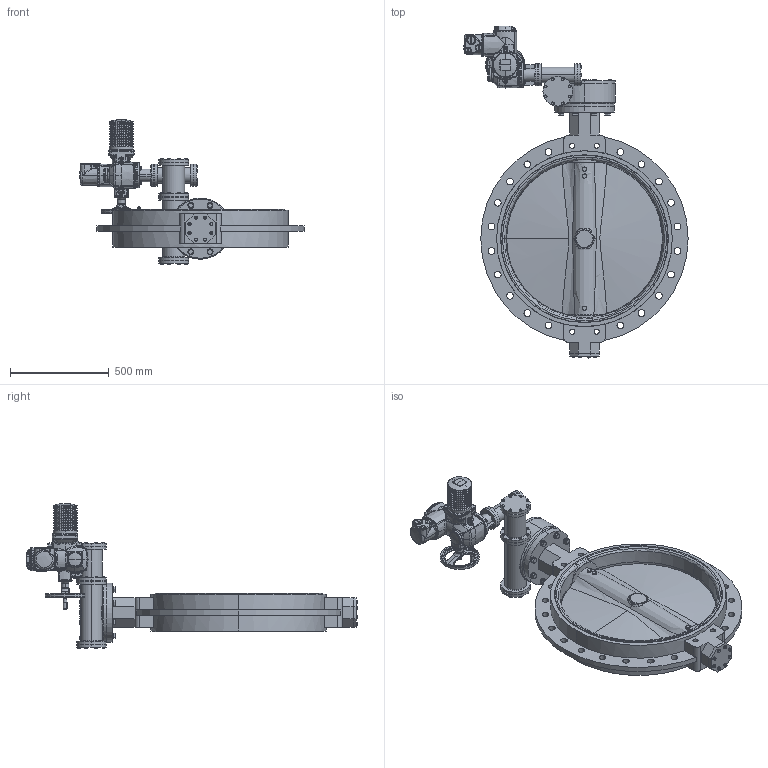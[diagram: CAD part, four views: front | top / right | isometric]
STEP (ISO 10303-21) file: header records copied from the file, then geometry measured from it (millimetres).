
FILE_DESCRIPTION (( 'STEP AP214' ), '1' );
FILE_NAME ('VPE440X-U04EP0800.STEP', '2020-08-04T15:46:39', ( '' ), ( '' ), 'SwSTEP 2.0', 'SolidWorks 2017', '' );
FILE_SCHEMA (( 'AUTOMOTIVE_DESIGN' ));
Length unit declared in the file: millimetre
Products named in the file (1): VPE440X-U04EP0800
Bounding box: 1135.54 x 1680.8 x 734.06 mm (x, y, z)
Surface area: 4855760.2 mm2 (no closed solid volume)
Topology: 0 solids, 218 shells, 1869 faces, 6558 edges, 4687 vertices
Faces by surface type: plane 591, bspline 541, cylinder 442, cone 267, torus 28
Entity records: 209521 total; most frequent: CARTESIAN_POINT 139920, ORIENTED_EDGE 9735, DIRECTION 8530, EDGE_CURVE 6532, VERTEX_POINT 4687, AXIS2_PLACEMENT_3D 3302, B_SPLINE_CURVE_WITH_KNOTS 2503, EDGE_LOOP 2108
